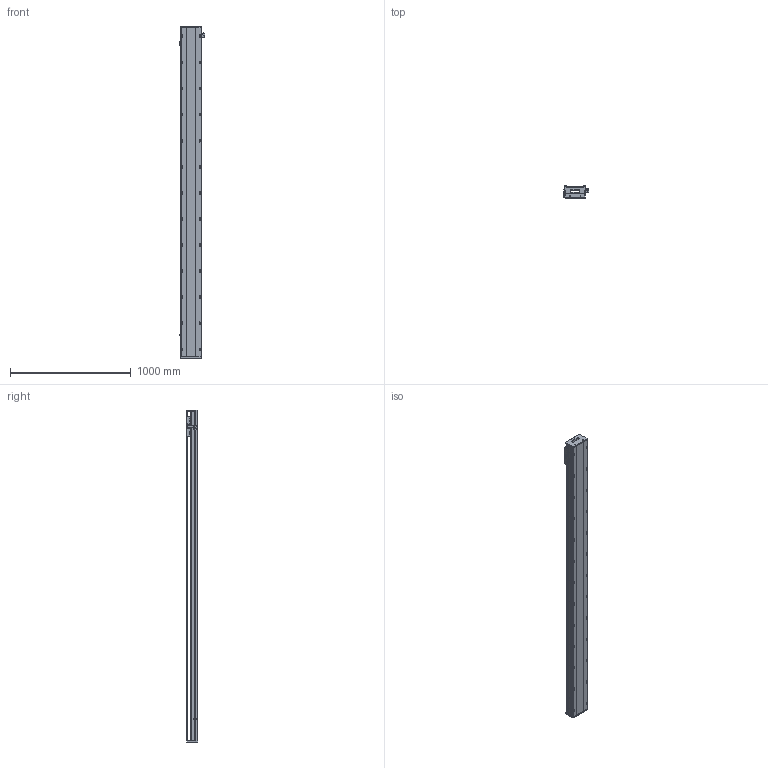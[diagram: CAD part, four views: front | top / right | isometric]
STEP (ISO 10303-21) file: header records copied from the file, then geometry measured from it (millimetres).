
FILE_DESCRIPTION (( 'STEP AP203' ), '1' );
FILE_NAME ('SKR17S-C1-S2478（简）.STEP', '2022-09-29T06:39:27', ( '' ), ( '' ), 'SwSTEP 2.0', 'SolidWorks 2018', '' );
FILE_SCHEMA (( 'CONFIG_CONTROL_DESIGN' ));
Length unit declared in the file: millimetre
Products named in the file (8): SKR17滑台-170L（简）; 棠掑假蚾輸; SKR17底座-C1-S2478（简); 感应片（SKR12S-14S-17S）; SIKO棠掑; EE-SX672; SKR17S-C1-S2478（简）; SKR17耜啣
Assembly tree (10 placements, depth 2):
  SKR17S-C1-S2478（简）
    SKR17底座-C1-S2478（简)
    SKR17滑台-170L（简）
    SIKO棠掑
    EE-SX672  x3
    SKR17耜啣  x2
    棠掑假蚾輸
    感应片（SKR12S-14S-17S）
Bounding box: 212.7 x 97 x 2748 mm (x, y, z)
Volume: 20901071.3 mm3; surface area: 2512618.5 mm2
Topology: 11 solids, 11 shells, 1425 faces, 3979 edges, 2558 vertices
Faces by surface type: cylinder 716, plane 565, cone 144
Entity records: 45190 total; most frequent: CARTESIAN_POINT 12713, ORIENTED_EDGE 6930, DIRECTION 6228, EDGE_CURVE 3465, VERTEX_POINT 2262, AXIS2_PLACEMENT_3D 2225, LINE 1778, VECTOR 1778
